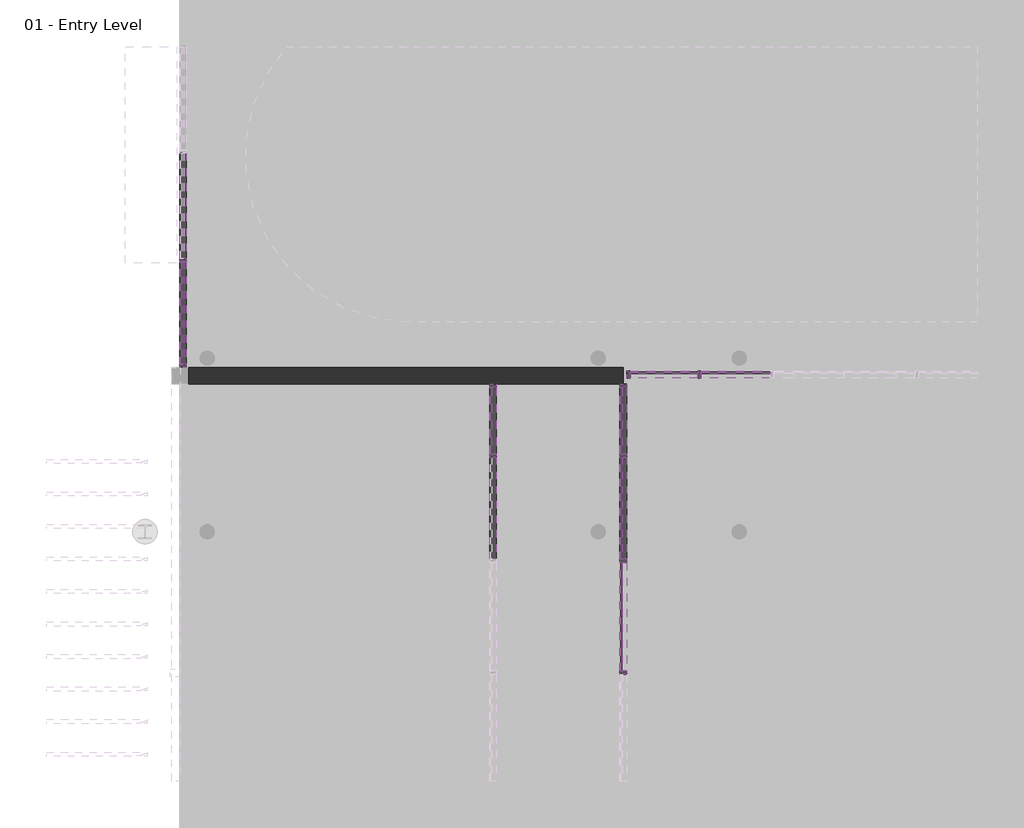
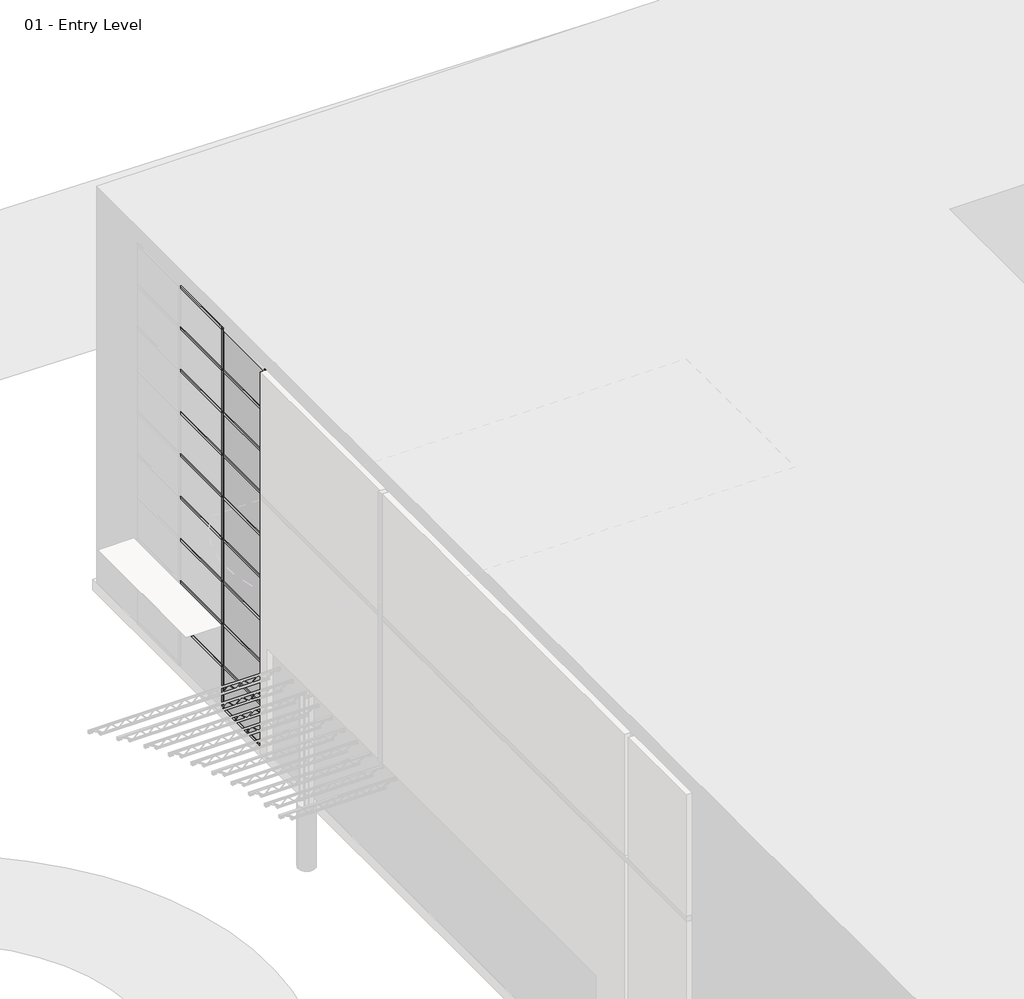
# One storey, part 23 of 34: 92 members, 24 plates, 1 door, 1 wall.
"""IFC4 building model written with IfcOpenShell, lengths in millimetres."""

from ifc_helpers import new_model, si_unit, origin, place, context, project, spatial, faceted_brep, transform, mapped, element, save
from components import curtain_wall_dbl_glass_curtain_wall_dbl_glass_d7d74fe3, member_2b49869a, member_75074519, member_18e22e2d, member_9193c932, member_391b434c, member_9e90ae50, member_71eb4692, member_a1da5be3, member_995c57f6, member_4a2c27e2, member_e7b2e991, member_547128e5, member_76223ac8, member_c8c2a2fa, member_6186cc23, member_5d67b9fc, member_a50b3cda, member_c327c56d, member_dfe75557, member_ec52078f, member_0a82c195, member_a6658832, member_b37ae9b7, member_f95d5bf5, member_cc8ff548, system_panel_glazed_652821f2, system_panel_glazed_968bda60, system_panel_glazed_6afda307, system_panel_glazed_f5a86650, system_panel_glazed_7fb24999, system_panel_glazed_57fb76c6, system_panel_glazed_8597e1a2, system_panel_glazed_7bbe6979, system_panel_glazed_d3a4a7cd, system_panel_glazed_76019dd7, system_panel_glazed_96e4dd87, system_panel_glazed_56110c51, system_panel_glazed_ea10912d, system_panel_glazed_266ebcb8, system_panel_solid_8d134956, system_panel_solid_ac74ffd1

model = new_model("IFC4")

# Units and contexts
model_context = context("Model", 3, world=origin())
ifc_project = project(units=[si_unit("LENGTHUNIT", "METRE", prefix="MILLI")], contexts=[model_context])

# Site, building, storey
site = spatial("IfcSite", under=ifc_project)
building = spatial("IfcBuilding", under=site)
storey = spatial("IfcBuildingStorey", under=building, Name="01 - Entry Level", Elevation=0.0)

# Door
placement = place(None, origin())
curtain_wall_dbl_glass_curtain_wall_dbl_glass_shape = curtain_wall_dbl_glass_curtain_wall_dbl_glass_d7d74fe3(model_context)
element("IfcDoor", 1, ObjectType="Curtain Wall Dbl Glass : Curtain Wall Dbl Glass", at=placement, inside=storey, context=model_context, shape_type="MappedRepresentation", body=[
    mapped(curtain_wall_dbl_glass_curtain_wall_dbl_glass_shape, transform((8421.0207476, 41071.725, 0.0), x_axis=(0.0, 1.0, 0.0), y_axis=(-1.0, 0.0, 0.0), z_axis=(0.0, 0.0, 1.0))),
])

# Members
member_shape = member_2b49869a(model_context)
element("IfcMember", 2, ObjectType="Rectangular Mullion : 2.5\" x 5\" rectangular", at=placement, inside=storey, context=model_context, shape_type="MappedRepresentation", body=[
    mapped(member_shape, transform((178.7207476, 47748.75, 9753.6), x_axis=(0.0, -1.0, 0.0), y_axis=(-1.0, 0.0, 0.0), z_axis=(0.0, 0.0, -1.0))),
])
member_2_shape = member_75074519(model_context)
element("IfcMember", 3, ObjectType="Rectangular Mullion : 2.5\" x 5\" rectangular", at=placement, inside=storey, context=model_context, shape_type="MappedRepresentation", body=[
    mapped(member_2_shape, transform((178.7207476, 45735.8, 9753.6), x_axis=(0.0, -1.0, 0.0), y_axis=(-1.0, 0.0, 0.0), z_axis=(0.0, 0.0, -1.0))),
])
member_3_shape = member_18e22e2d(model_context)
element("IfcMember", 4, ObjectType="Rectangular Mullion : 2.5\" x 5\" rectangular", at=placement, inside=storey, context=model_context, shape_type="MappedRepresentation", body=[
    mapped(member_3_shape, transform((9843.4207476, 45608.8, 2438.4), x_axis=(-1.0, 0.0, 0.0), y_axis=(0.0, 1.0, 0.0), z_axis=(0.0, 0.0, -1.0))),
])
element("IfcMember", 5, ObjectType="Rectangular Mullion : 2.5\" x 5\" rectangular", at=placement, inside=storey, context=model_context, shape_type="MappedRepresentation", body=[
    mapped(member_3_shape, transform((5982.6207476, 44087.975, 2438.4), x_axis=(0.0, 1.0, 0.0), y_axis=(1.0, 0.0, 0.0), z_axis=(0.0, 0.0, -1.0))),
])
element("IfcMember", 6, ObjectType="Rectangular Mullion : 2.5\" x 5\" rectangular", at=placement, inside=storey, context=model_context, shape_type="MappedRepresentation", body=[
    mapped(member_3_shape, transform((8421.0207476, 40023.975, 2438.4), x_axis=(0.0, 1.0, 0.0), y_axis=(1.0, 0.0, 0.0), z_axis=(0.0, 0.0, -1.0))),
])
element("IfcMember", 7, ObjectType="Rectangular Mullion : 2.5\" x 5\" rectangular", at=placement, inside=storey, context=model_context, shape_type="MappedRepresentation", body=[
    mapped(member_3_shape, transform((8421.0207476, 42119.475, 2438.4), x_axis=(0.0, 1.0, 0.0), y_axis=(1.0, 0.0, 0.0), z_axis=(0.0, 0.0, -1.0))),
])
element("IfcMember", 8, ObjectType="Rectangular Mullion : 2.5\" x 5\" rectangular", at=placement, inside=storey, context=model_context, shape_type="MappedRepresentation", body=[
    mapped(member_3_shape, transform((8421.0207476, 44087.975, 2438.4), x_axis=(0.0, 1.0, 0.0), y_axis=(1.0, 0.0, 0.0), z_axis=(0.0, 0.0, -1.0))),
])
member_4_shape = member_9193c932(model_context)
element("IfcMember", 9, ObjectType="Rectangular Mullion : 2.5\" x 5\" rectangular", at=placement, inside=storey, context=model_context, shape_type="MappedRepresentation", body=[
    mapped(member_4_shape, transform((5982.6207476, 45427.825, 2438.4), x_axis=(0.0, 1.0, 0.0), y_axis=(1.0, 0.0, 0.0), z_axis=(0.0, 0.0, -1.0))),
])
element("IfcMember", 10, ObjectType="Rectangular Mullion : 2.5\" x 5\" rectangular", at=placement, inside=storey, context=model_context, shape_type="MappedRepresentation", body=[
    mapped(member_4_shape, transform((8421.0207476, 45427.825, 2438.4), x_axis=(0.0, 1.0, 0.0), y_axis=(1.0, 0.0, 0.0), z_axis=(0.0, 0.0, -1.0))),
])
element("IfcMember", 11, ObjectType="Rectangular Mullion : 2.5\" x 5\" rectangular", at=placement, inside=storey, context=model_context, shape_type="MappedRepresentation", body=[
    mapped(member_4_shape, transform((8484.5207476, 45608.8, 2438.4), x_axis=(-1.0, 0.0, 0.0), y_axis=(0.0, 1.0, 0.0), z_axis=(0.0, 0.0, -1.0))),
])
member_5_shape = member_391b434c(model_context)
element("IfcMember", 12, ObjectType="Rectangular Mullion : 2.5\" x 5\" rectangular", at=placement, inside=storey, context=model_context, shape_type="MappedRepresentation", body=[
    mapped(member_5_shape, transform((178.7207476, 47780.5, 10972.8), x_axis=(0.0, 0.0, 1.0), y_axis=(-1.0, 0.0, 0.0), z_axis=(0.0, -1.0, 0.0))),
])
member_6_shape = member_9e90ae50(model_context)
element("IfcMember", 13, ObjectType="Rectangular Mullion : 2.5\" x 5\" rectangular", at=placement, inside=storey, context=model_context, shape_type="MappedRepresentation", body=[
    mapped(member_6_shape, transform((178.7207476, 47780.5, 1219.2), x_axis=(0.0, 0.0, 1.0), y_axis=(-1.0, 0.0, 0.0), z_axis=(0.0, -1.0, 0.0))),
])
element("IfcMember", 14, ObjectType="Rectangular Mullion : 2.5\" x 5\" rectangular", at=placement, inside=storey, context=model_context, shape_type="MappedRepresentation", body=[
    mapped(member_6_shape, transform((178.7207476, 47780.5, 2438.4), x_axis=(0.0, 0.0, 1.0), y_axis=(-1.0, 0.0, 0.0), z_axis=(0.0, -1.0, 0.0))),
])
element("IfcMember", 15, ObjectType="Rectangular Mullion : 2.5\" x 5\" rectangular", at=placement, inside=storey, context=model_context, shape_type="MappedRepresentation", body=[
    mapped(member_6_shape, transform((178.7207476, 47780.5, 3657.6), x_axis=(0.0, 0.0, 1.0), y_axis=(-1.0, 0.0, 0.0), z_axis=(0.0, -1.0, 0.0))),
])
element("IfcMember", 16, ObjectType="Rectangular Mullion : 2.5\" x 5\" rectangular", at=placement, inside=storey, context=model_context, shape_type="MappedRepresentation", body=[
    mapped(member_6_shape, transform((178.7207476, 47780.5, 4876.8), x_axis=(0.0, 0.0, 1.0), y_axis=(-1.0, 0.0, 0.0), z_axis=(0.0, -1.0, 0.0))),
])
element("IfcMember", 17, ObjectType="Rectangular Mullion : 2.5\" x 5\" rectangular", at=placement, inside=storey, context=model_context, shape_type="MappedRepresentation", body=[
    mapped(member_6_shape, transform((178.7207476, 47780.5, 6096.0), x_axis=(0.0, 0.0, 1.0), y_axis=(-1.0, 0.0, 0.0), z_axis=(0.0, -1.0, 0.0))),
])
element("IfcMember", 18, ObjectType="Rectangular Mullion : 2.5\" x 5\" rectangular", at=placement, inside=storey, context=model_context, shape_type="MappedRepresentation", body=[
    mapped(member_6_shape, transform((178.7207476, 47780.5, 7315.2), x_axis=(0.0, 0.0, 1.0), y_axis=(-1.0, 0.0, 0.0), z_axis=(0.0, -1.0, 0.0))),
])
element("IfcMember", 19, ObjectType="Rectangular Mullion : 2.5\" x 5\" rectangular", at=placement, inside=storey, context=model_context, shape_type="MappedRepresentation", body=[
    mapped(member_6_shape, transform((178.7207476, 47780.5, 8534.4), x_axis=(0.0, 0.0, 1.0), y_axis=(-1.0, 0.0, 0.0), z_axis=(0.0, -1.0, 0.0))),
])
element("IfcMember", 20, ObjectType="Rectangular Mullion : 2.5\" x 5\" rectangular", at=placement, inside=storey, context=model_context, shape_type="MappedRepresentation", body=[
    mapped(member_6_shape, transform((178.7207476, 47780.5, 9753.6), x_axis=(0.0, 0.0, 1.0), y_axis=(-1.0, 0.0, 0.0), z_axis=(0.0, -1.0, 0.0))),
])
element("IfcMember", 21, ObjectType="Rectangular Mullion : 2.5\" x 5\" rectangular", at=placement, inside=storey, context=model_context, shape_type="MappedRepresentation", body=[
    mapped(member_shape, transform((178.7207476, 47748.75, 0.0), x_axis=(0.0, -1.0, 0.0), y_axis=(-1.0, 0.0, 0.0), z_axis=(0.0, 0.0, -1.0))),
])
element("IfcMember", 22, ObjectType="Rectangular Mullion : 2.5\" x 5\" rectangular", at=placement, inside=storey, context=model_context, shape_type="MappedRepresentation", body=[
    mapped(member_shape, transform((178.7207476, 47748.75, 1219.2), x_axis=(0.0, -1.0, 0.0), y_axis=(-1.0, 0.0, 0.0), z_axis=(0.0, 0.0, -1.0))),
])
element("IfcMember", 23, ObjectType="Rectangular Mullion : 2.5\" x 5\" rectangular", at=placement, inside=storey, context=model_context, shape_type="MappedRepresentation", body=[
    mapped(member_shape, transform((178.7207476, 47748.75, 2438.4), x_axis=(0.0, -1.0, 0.0), y_axis=(-1.0, 0.0, 0.0), z_axis=(0.0, 0.0, -1.0))),
])
element("IfcMember", 24, ObjectType="Rectangular Mullion : 2.5\" x 5\" rectangular", at=placement, inside=storey, context=model_context, shape_type="MappedRepresentation", body=[
    mapped(member_shape, transform((178.7207476, 47748.75, 3657.6), x_axis=(0.0, -1.0, 0.0), y_axis=(-1.0, 0.0, 0.0), z_axis=(0.0, 0.0, -1.0))),
])
element("IfcMember", 25, ObjectType="Rectangular Mullion : 2.5\" x 5\" rectangular", at=placement, inside=storey, context=model_context, shape_type="MappedRepresentation", body=[
    mapped(member_shape, transform((178.7207476, 47748.75, 4876.8), x_axis=(0.0, -1.0, 0.0), y_axis=(-1.0, 0.0, 0.0), z_axis=(0.0, 0.0, -1.0))),
])
element("IfcMember", 26, ObjectType="Rectangular Mullion : 2.5\" x 5\" rectangular", at=placement, inside=storey, context=model_context, shape_type="MappedRepresentation", body=[
    mapped(member_shape, transform((178.7207476, 47748.75, 6096.0), x_axis=(0.0, -1.0, 0.0), y_axis=(-1.0, 0.0, 0.0), z_axis=(0.0, 0.0, -1.0))),
])
element("IfcMember", 27, ObjectType="Rectangular Mullion : 2.5\" x 5\" rectangular", at=placement, inside=storey, context=model_context, shape_type="MappedRepresentation", body=[
    mapped(member_shape, transform((178.7207476, 47748.75, 7315.2), x_axis=(0.0, -1.0, 0.0), y_axis=(-1.0, 0.0, 0.0), z_axis=(0.0, 0.0, -1.0))),
])
element("IfcMember", 28, ObjectType="Rectangular Mullion : 2.5\" x 5\" rectangular", at=placement, inside=storey, context=model_context, shape_type="MappedRepresentation", body=[
    mapped(member_shape, transform((178.7207476, 47748.75, 8534.4), x_axis=(0.0, -1.0, 0.0), y_axis=(-1.0, 0.0, 0.0), z_axis=(0.0, 0.0, -1.0))),
])
element("IfcMember", 29, ObjectType="Rectangular Mullion : 2.5\" x 5\" rectangular", at=placement, inside=storey, context=model_context, shape_type="MappedRepresentation", body=[
    mapped(member_shape, transform((5982.6207476, 44087.975, 0.0), x_axis=(0.0, 1.0, 0.0), y_axis=(1.0, 0.0, 0.0), z_axis=(0.0, 0.0, -1.0))),
])
element("IfcMember", 30, ObjectType="Rectangular Mullion : 2.5\" x 5\" rectangular", at=placement, inside=storey, context=model_context, shape_type="MappedRepresentation", body=[
    mapped(member_shape, transform((8421.0207476, 42119.475, 0.0), x_axis=(0.0, 1.0, 0.0), y_axis=(1.0, 0.0, 0.0), z_axis=(0.0, 0.0, -1.0))),
])
element("IfcMember", 31, ObjectType="Rectangular Mullion : 2.5\" x 5\" rectangular", at=placement, inside=storey, context=model_context, shape_type="MappedRepresentation", body=[
    mapped(member_shape, transform((8421.0207476, 44087.975, 0.0), x_axis=(0.0, 1.0, 0.0), y_axis=(1.0, 0.0, 0.0), z_axis=(0.0, 0.0, -1.0))),
])
element("IfcMember", 32, ObjectType="Rectangular Mullion : 2.5\" x 5\" rectangular", at=placement, inside=storey, context=model_context, shape_type="MappedRepresentation", body=[
    mapped(member_2_shape, transform((178.7207476, 45735.8, 0.0), x_axis=(0.0, -1.0, 0.0), y_axis=(-1.0, 0.0, 0.0), z_axis=(0.0, 0.0, -1.0))),
])
element("IfcMember", 33, ObjectType="Rectangular Mullion : 2.5\" x 5\" rectangular", at=placement, inside=storey, context=model_context, shape_type="MappedRepresentation", body=[
    mapped(member_2_shape, transform((5982.6207476, 45427.825, 0.0), x_axis=(0.0, 1.0, 0.0), y_axis=(1.0, 0.0, 0.0), z_axis=(0.0, 0.0, -1.0))),
])
element("IfcMember", 34, ObjectType="Rectangular Mullion : 2.5\" x 5\" rectangular", at=placement, inside=storey, context=model_context, shape_type="MappedRepresentation", body=[
    mapped(member_2_shape, transform((8421.0207476, 45427.825, 0.0), x_axis=(0.0, 1.0, 0.0), y_axis=(1.0, 0.0, 0.0), z_axis=(0.0, 0.0, -1.0))),
])
element("IfcMember", 35, ObjectType="Rectangular Mullion : 2.5\" x 5\" rectangular", at=placement, inside=storey, context=model_context, shape_type="MappedRepresentation", body=[
    mapped(member_2_shape, transform((178.7207476, 45735.8, 1219.2), x_axis=(0.0, -1.0, 0.0), y_axis=(-1.0, 0.0, 0.0), z_axis=(0.0, 0.0, -1.0))),
])
element("IfcMember", 36, ObjectType="Rectangular Mullion : 2.5\" x 5\" rectangular", at=placement, inside=storey, context=model_context, shape_type="MappedRepresentation", body=[
    mapped(member_2_shape, transform((178.7207476, 45735.8, 2438.4), x_axis=(0.0, -1.0, 0.0), y_axis=(-1.0, 0.0, 0.0), z_axis=(0.0, 0.0, -1.0))),
])
element("IfcMember", 37, ObjectType="Rectangular Mullion : 2.5\" x 5\" rectangular", at=placement, inside=storey, context=model_context, shape_type="MappedRepresentation", body=[
    mapped(member_2_shape, transform((178.7207476, 45735.8, 3657.6), x_axis=(0.0, -1.0, 0.0), y_axis=(-1.0, 0.0, 0.0), z_axis=(0.0, 0.0, -1.0))),
])
element("IfcMember", 38, ObjectType="Rectangular Mullion : 2.5\" x 5\" rectangular", at=placement, inside=storey, context=model_context, shape_type="MappedRepresentation", body=[
    mapped(member_2_shape, transform((178.7207476, 45735.8, 4876.8), x_axis=(0.0, -1.0, 0.0), y_axis=(-1.0, 0.0, 0.0), z_axis=(0.0, 0.0, -1.0))),
])
element("IfcMember", 39, ObjectType="Rectangular Mullion : 2.5\" x 5\" rectangular", at=placement, inside=storey, context=model_context, shape_type="MappedRepresentation", body=[
    mapped(member_2_shape, transform((178.7207476, 45735.8, 6096.0), x_axis=(0.0, -1.0, 0.0), y_axis=(-1.0, 0.0, 0.0), z_axis=(0.0, 0.0, -1.0))),
])
element("IfcMember", 40, ObjectType="Rectangular Mullion : 2.5\" x 5\" rectangular", at=placement, inside=storey, context=model_context, shape_type="MappedRepresentation", body=[
    mapped(member_2_shape, transform((178.7207476, 45735.8, 7315.2), x_axis=(0.0, -1.0, 0.0), y_axis=(-1.0, 0.0, 0.0), z_axis=(0.0, 0.0, -1.0))),
])
element("IfcMember", 41, ObjectType="Rectangular Mullion : 2.5\" x 5\" rectangular", at=placement, inside=storey, context=model_context, shape_type="MappedRepresentation", body=[
    mapped(member_2_shape, transform((178.7207476, 45735.8, 8534.4), x_axis=(0.0, -1.0, 0.0), y_axis=(-1.0, 0.0, 0.0), z_axis=(0.0, 0.0, -1.0))),
])
element("IfcMember", 42, ObjectType="Rectangular Mullion : 2.5\" x 5\" rectangular", at=placement, inside=storey, context=model_context, shape_type="MappedRepresentation", body=[
    mapped(member_shape, transform((8421.0207476, 40023.975, 0.0), x_axis=(0.0, 1.0, 0.0), y_axis=(1.0, 0.0, 0.0), z_axis=(0.0, 0.0, -1.0))),
])
member_7_shape = member_71eb4692(model_context)
element("IfcMember", 43, ObjectType="Rectangular Mullion : 2.5\" x 5\" rectangular", at=placement, inside=storey, context=model_context, shape_type="MappedRepresentation", body=[
    mapped(member_7_shape, transform((5982.6207476, 45364.325, 3403.6), x_axis=(0.0, 0.0, 1.0), y_axis=(1.0, 0.0, 0.0), z_axis=(0.0, 1.0, 0.0))),
])
element("IfcMember", 44, ObjectType="Rectangular Mullion : 2.5\" x 5\" rectangular", at=placement, inside=storey, context=model_context, shape_type="MappedRepresentation", body=[
    mapped(member_7_shape, transform((8421.0207476, 45364.325, 3403.6), x_axis=(0.0, 0.0, 1.0), y_axis=(1.0, 0.0, 0.0), z_axis=(0.0, 1.0, 0.0))),
])
element("IfcMember", 45, ObjectType="Rectangular Mullion : 2.5\" x 5\" rectangular", at=placement, inside=storey, context=model_context, shape_type="MappedRepresentation", body=[
    mapped(member_7_shape, transform((5982.6207476, 44119.725, 0.0), x_axis=(0.0, 0.0, -1.0), y_axis=(1.0, 0.0, 0.0), z_axis=(0.0, -1.0, 0.0))),
])
element("IfcMember", 46, ObjectType="Rectangular Mullion : 2.5\" x 5\" rectangular", at=placement, inside=storey, context=model_context, shape_type="MappedRepresentation", body=[
    mapped(member_7_shape, transform((8421.0207476, 44119.725, 0.0), x_axis=(0.0, 0.0, -1.0), y_axis=(1.0, 0.0, 0.0), z_axis=(0.0, -1.0, 0.0))),
])
member_8_shape = member_a1da5be3(model_context)
element("IfcMember", 47, ObjectType="Rectangular Mullion : 2.5\" x 5\" rectangular", at=placement, inside=storey, context=model_context, shape_type="MappedRepresentation", body=[
    mapped(member_8_shape, transform((5982.6207476, 45364.325, 1219.2), x_axis=(0.0, 0.0, 1.0), y_axis=(1.0, 0.0, 0.0), z_axis=(0.0, 1.0, 0.0))),
])
element("IfcMember", 48, ObjectType="Rectangular Mullion : 2.5\" x 5\" rectangular", at=placement, inside=storey, context=model_context, shape_type="MappedRepresentation", body=[
    mapped(member_8_shape, transform((5982.6207476, 45364.325, 2438.4), x_axis=(0.0, 0.0, 1.0), y_axis=(1.0, 0.0, 0.0), z_axis=(0.0, 1.0, 0.0))),
])
element("IfcMember", 49, ObjectType="Rectangular Mullion : 2.5\" x 5\" rectangular", at=placement, inside=storey, context=model_context, shape_type="MappedRepresentation", body=[
    mapped(member_8_shape, transform((8421.0207476, 45364.325, 1219.2), x_axis=(0.0, 0.0, 1.0), y_axis=(1.0, 0.0, 0.0), z_axis=(0.0, 1.0, 0.0))),
])
element("IfcMember", 50, ObjectType="Rectangular Mullion : 2.5\" x 5\" rectangular", at=placement, inside=storey, context=model_context, shape_type="MappedRepresentation", body=[
    mapped(member_8_shape, transform((8421.0207476, 45364.325, 2438.4), x_axis=(0.0, 0.0, 1.0), y_axis=(1.0, 0.0, 0.0), z_axis=(0.0, 1.0, 0.0))),
])
member_9_shape = member_995c57f6(model_context)
element("IfcMember", 51, ObjectType="Rectangular Mullion : 2.5\" x 5\" rectangular", at=placement, inside=storey, context=model_context, shape_type="MappedRepresentation", body=[
    mapped(member_9_shape, transform((178.7207476, 47717.0, 0.0), x_axis=(0.0, 0.0, -1.0), y_axis=(-1.0, 0.0, 0.0), z_axis=(0.0, 1.0, 0.0))),
])
member_10_shape = member_4a2c27e2(model_context)
element("IfcMember", 52, ObjectType="Rectangular Mullion : 2.5\" x 5\" rectangular", at=placement, inside=storey, context=model_context, shape_type="MappedRepresentation", body=[
    mapped(member_10_shape, transform((178.7207476, 45799.3, 1219.2), x_axis=(0.0, 0.0, 1.0), y_axis=(-1.0, 0.0, 0.0), z_axis=(0.0, -1.0, 0.0))),
])
element("IfcMember", 53, ObjectType="Rectangular Mullion : 2.5\" x 5\" rectangular", at=placement, inside=storey, context=model_context, shape_type="MappedRepresentation", body=[
    mapped(member_10_shape, transform((178.7207476, 45799.3, 2438.4), x_axis=(0.0, 0.0, 1.0), y_axis=(-1.0, 0.0, 0.0), z_axis=(0.0, -1.0, 0.0))),
])
element("IfcMember", 54, ObjectType="Rectangular Mullion : 2.5\" x 5\" rectangular", at=placement, inside=storey, context=model_context, shape_type="MappedRepresentation", body=[
    mapped(member_10_shape, transform((178.7207476, 45799.3, 3657.6), x_axis=(0.0, 0.0, 1.0), y_axis=(-1.0, 0.0, 0.0), z_axis=(0.0, -1.0, 0.0))),
])
element("IfcMember", 55, ObjectType="Rectangular Mullion : 2.5\" x 5\" rectangular", at=placement, inside=storey, context=model_context, shape_type="MappedRepresentation", body=[
    mapped(member_10_shape, transform((178.7207476, 45799.3, 4876.8), x_axis=(0.0, 0.0, 1.0), y_axis=(-1.0, 0.0, 0.0), z_axis=(0.0, -1.0, 0.0))),
])
element("IfcMember", 56, ObjectType="Rectangular Mullion : 2.5\" x 5\" rectangular", at=placement, inside=storey, context=model_context, shape_type="MappedRepresentation", body=[
    mapped(member_10_shape, transform((178.7207476, 45799.3, 6096.0), x_axis=(0.0, 0.0, 1.0), y_axis=(-1.0, 0.0, 0.0), z_axis=(0.0, -1.0, 0.0))),
])
element("IfcMember", 57, ObjectType="Rectangular Mullion : 2.5\" x 5\" rectangular", at=placement, inside=storey, context=model_context, shape_type="MappedRepresentation", body=[
    mapped(member_10_shape, transform((178.7207476, 45799.3, 7315.2), x_axis=(0.0, 0.0, 1.0), y_axis=(-1.0, 0.0, 0.0), z_axis=(0.0, -1.0, 0.0))),
])
element("IfcMember", 58, ObjectType="Rectangular Mullion : 2.5\" x 5\" rectangular", at=placement, inside=storey, context=model_context, shape_type="MappedRepresentation", body=[
    mapped(member_10_shape, transform((178.7207476, 45799.3, 8534.4), x_axis=(0.0, 0.0, 1.0), y_axis=(-1.0, 0.0, 0.0), z_axis=(0.0, -1.0, 0.0))),
])
element("IfcMember", 59, ObjectType="Rectangular Mullion : 2.5\" x 5\" rectangular", at=placement, inside=storey, context=model_context, shape_type="MappedRepresentation", body=[
    mapped(member_10_shape, transform((178.7207476, 45799.3, 9753.6), x_axis=(0.0, 0.0, 1.0), y_axis=(-1.0, 0.0, 0.0), z_axis=(0.0, -1.0, 0.0))),
])
member_11_shape = member_e7b2e991(model_context)
element("IfcMember", 60, ObjectType="Rectangular Mullion : 2.5\" x 5\" rectangular", at=placement, inside=storey, context=model_context, shape_type="MappedRepresentation", body=[
    mapped(member_11_shape, transform((8548.0207476, 45608.8, 3403.6), x_axis=(0.0, 0.0, 1.0), y_axis=(0.0, 1.0, 0.0), z_axis=(-1.0, 0.0, 0.0))),
])
element("IfcMember", 61, ObjectType="Rectangular Mullion : 2.5\" x 5\" rectangular", at=placement, inside=storey, context=model_context, shape_type="MappedRepresentation", body=[
    mapped(member_11_shape, transform((9811.6707476, 45608.8, 0.0), x_axis=(0.0, 0.0, -1.0), y_axis=(0.0, 1.0, 0.0), z_axis=(1.0, 0.0, 0.0))),
])
member_12_shape = member_547128e5(model_context)
element("IfcMember", 62, ObjectType="Rectangular Mullion : 2.5\" x 5\" rectangular", at=placement, inside=storey, context=model_context, shape_type="MappedRepresentation", body=[
    mapped(member_12_shape, transform((9875.1707476, 45608.8, 3403.6), x_axis=(0.0, 0.0, 1.0), y_axis=(0.0, 1.0, 0.0), z_axis=(-1.0, 0.0, 0.0))),
])
element("IfcMember", 63, ObjectType="Rectangular Mullion : 2.5\" x 5\" rectangular", at=placement, inside=storey, context=model_context, shape_type="MappedRepresentation", body=[
    mapped(member_12_shape, transform((11170.5707476, 45608.8, 0.0), x_axis=(0.0, 0.0, -1.0), y_axis=(0.0, 1.0, 0.0), z_axis=(1.0, 0.0, 0.0))),
])
member_13_shape = member_76223ac8(model_context)
element("IfcMember", 64, ObjectType="Rectangular Mullion : 2.5\" x 5\" rectangular", at=placement, inside=storey, context=model_context, shape_type="MappedRepresentation", body=[
    mapped(member_13_shape, transform((8548.0207476, 45608.8, 2438.4), x_axis=(0.0, 0.0, 1.0), y_axis=(0.0, 1.0, 0.0), z_axis=(-1.0, 0.0, 0.0))),
])
member_14_shape = member_c8c2a2fa(model_context)
element("IfcMember", 65, ObjectType="Rectangular Mullion : 2.5\" x 5\" rectangular", at=placement, inside=storey, context=model_context, shape_type="MappedRepresentation", body=[
    mapped(member_14_shape, transform((9875.1707476, 45608.8, 2438.4), x_axis=(0.0, 0.0, 1.0), y_axis=(0.0, 1.0, 0.0), z_axis=(-1.0, 0.0, 0.0))),
])
member_15_shape = member_6186cc23(model_context)
element("IfcMember", 66, ObjectType="Rectangular Mullion : 2.5\" x 5\" rectangular", at=placement, inside=storey, context=model_context, shape_type="MappedRepresentation", body=[
    mapped(member_15_shape, transform((9843.4207476, 45608.8, 0.0), x_axis=(-1.0, 0.0, 0.0), y_axis=(0.0, 1.0, 0.0), z_axis=(0.0, 0.0, -1.0))),
])
member_16_shape = member_5d67b9fc(model_context)
element("IfcMember", 67, ObjectType="Rectangular Mullion : 2.5\" x 5\" rectangular", at=placement, inside=storey, context=model_context, shape_type="MappedRepresentation", body=[
    mapped(member_16_shape, transform((9843.4207476, 45608.8, 2165.35), x_axis=(-1.0, 0.0, 0.0), y_axis=(0.0, 1.0, 0.0), z_axis=(0.0, 0.0, -1.0))),
])
member_17_shape = member_a50b3cda(model_context)
element("IfcMember", 68, ObjectType="Rectangular Mullion : 2.5\" x 5\" rectangular", at=placement, inside=storey, context=model_context, shape_type="MappedRepresentation", body=[
    mapped(member_17_shape, transform((8484.5207476, 45608.8, 0.0), x_axis=(-1.0, 0.0, 0.0), y_axis=(0.0, 1.0, 0.0), z_axis=(0.0, 0.0, -1.0))),
])
member_18_shape = member_c327c56d(model_context)
element("IfcMember", 69, ObjectType="Rectangular Mullion : 2.5\" x 5\" rectangular", at=placement, inside=storey, context=model_context, shape_type="MappedRepresentation", body=[
    mapped(member_18_shape, transform((8484.5207476, 45608.8, 2165.35), x_axis=(-1.0, 0.0, 0.0), y_axis=(0.0, 1.0, 0.0), z_axis=(0.0, 0.0, -1.0))),
])
member_19_shape = member_dfe75557(model_context)
element("IfcMember", 70, ObjectType="Rectangular Mullion : 2.5\" x 5\" rectangular", at=placement, inside=storey, context=model_context, shape_type="MappedRepresentation", body=[
    mapped(member_19_shape, transform((11234.0707476, 45608.8, 3403.6), x_axis=(0.0, 0.0, 1.0), y_axis=(0.0, 1.0, 0.0), z_axis=(-1.0, 0.0, 0.0))),
])
member_20_shape = member_ec52078f(model_context)
element("IfcMember", 71, ObjectType="Rectangular Mullion : 2.5\" x 5\" rectangular", at=placement, inside=storey, context=model_context, shape_type="MappedRepresentation", body=[
    mapped(member_20_shape, transform((11615.0707476, 45608.8, 2438.4), x_axis=(0.0, 0.0, 1.0), y_axis=(0.0, 1.0, 0.0), z_axis=(-1.0, 0.0, 0.0))),
])
element("IfcMember", 72, ObjectType="Rectangular Mullion : 2.5\" x 5\" rectangular", at=placement, inside=storey, context=model_context, shape_type="MappedRepresentation", body=[
    mapped(member_16_shape, transform((8421.0207476, 40023.975, 2165.35), x_axis=(0.0, 1.0, 0.0), y_axis=(1.0, 0.0, 0.0), z_axis=(0.0, 0.0, -1.0))),
])
element("IfcMember", 73, ObjectType="Rectangular Mullion : 2.5\" x 5\" rectangular", at=placement, inside=storey, context=model_context, shape_type="MappedRepresentation", body=[
    mapped(member_16_shape, transform((8421.0207476, 42119.475, 2165.35), x_axis=(0.0, 1.0, 0.0), y_axis=(1.0, 0.0, 0.0), z_axis=(0.0, 0.0, -1.0))),
])
element("IfcMember", 74, ObjectType="Rectangular Mullion : 2.5\" x 5\" rectangular", at=placement, inside=storey, context=model_context, shape_type="MappedRepresentation", body=[
    mapped(member_18_shape, transform((5982.6207476, 45427.825, 2165.35), x_axis=(0.0, 1.0, 0.0), y_axis=(1.0, 0.0, 0.0), z_axis=(0.0, 0.0, -1.0))),
])
element("IfcMember", 75, ObjectType="Rectangular Mullion : 2.5\" x 5\" rectangular", at=placement, inside=storey, context=model_context, shape_type="MappedRepresentation", body=[
    mapped(member_18_shape, transform((8421.0207476, 45427.825, 2165.35), x_axis=(0.0, 1.0, 0.0), y_axis=(1.0, 0.0, 0.0), z_axis=(0.0, 0.0, -1.0))),
])
element("IfcMember", 76, ObjectType="Rectangular Mullion : 2.5\" x 5\" rectangular", at=placement, inside=storey, context=model_context, shape_type="MappedRepresentation", body=[
    mapped(member_16_shape, transform((5982.6207476, 44087.975, 2165.35), x_axis=(0.0, 1.0, 0.0), y_axis=(1.0, 0.0, 0.0), z_axis=(0.0, 0.0, -1.0))),
])
element("IfcMember", 77, ObjectType="Rectangular Mullion : 2.5\" x 5\" rectangular", at=placement, inside=storey, context=model_context, shape_type="MappedRepresentation", body=[
    mapped(member_16_shape, transform((8421.0207476, 44087.975, 2165.35), x_axis=(0.0, 1.0, 0.0), y_axis=(1.0, 0.0, 0.0), z_axis=(0.0, 0.0, -1.0))),
])
member_21_shape = member_0a82c195(model_context)
element("IfcMember", 78, ObjectType="Rectangular Mullion : 2.5\" x 5\" rectangular", at=placement, inside=storey, context=model_context, shape_type="MappedRepresentation", body=[
    mapped(member_21_shape, transform((8421.0207476, 42087.725, 3403.6), x_axis=(0.0, 0.0, 1.0), y_axis=(1.0, 0.0, 0.0), z_axis=(0.0, 1.0, 0.0))),
])
member_22_shape = member_a6658832(model_context)
element("IfcMember", 79, ObjectType="Rectangular Mullion : 2.5\" x 5\" rectangular", at=placement, inside=storey, context=model_context, shape_type="MappedRepresentation", body=[
    mapped(member_22_shape, transform((5982.6207476, 44056.225, 3403.6), x_axis=(0.0, 0.0, 1.0), y_axis=(1.0, 0.0, 0.0), z_axis=(0.0, 1.0, 0.0))),
])
element("IfcMember", 80, ObjectType="Rectangular Mullion : 2.5\" x 5\" rectangular", at=placement, inside=storey, context=model_context, shape_type="MappedRepresentation", body=[
    mapped(member_22_shape, transform((8421.0207476, 44056.225, 3403.6), x_axis=(0.0, 0.0, 1.0), y_axis=(1.0, 0.0, 0.0), z_axis=(0.0, 1.0, 0.0))),
])
element("IfcMember", 81, ObjectType="Rectangular Mullion : 2.5\" x 5\" rectangular", at=placement, inside=storey, context=model_context, shape_type="MappedRepresentation", body=[
    mapped(member_22_shape, transform((8421.0207476, 42151.225, 0.0), x_axis=(0.0, 0.0, -1.0), y_axis=(1.0, 0.0, 0.0), z_axis=(0.0, -1.0, 0.0))),
])
member_23_shape = member_b37ae9b7(model_context)
element("IfcMember", 82, ObjectType="Rectangular Mullion : 2.5\" x 5\" rectangular", at=placement, inside=storey, context=model_context, shape_type="MappedRepresentation", body=[
    mapped(member_23_shape, transform((5982.6207476, 44056.225, 1219.2), x_axis=(0.0, 0.0, 1.0), y_axis=(1.0, 0.0, 0.0), z_axis=(0.0, 1.0, 0.0))),
])
element("IfcMember", 83, ObjectType="Rectangular Mullion : 2.5\" x 5\" rectangular", at=placement, inside=storey, context=model_context, shape_type="MappedRepresentation", body=[
    mapped(member_23_shape, transform((5982.6207476, 44056.225, 2438.4), x_axis=(0.0, 0.0, 1.0), y_axis=(1.0, 0.0, 0.0), z_axis=(0.0, 1.0, 0.0))),
])
element("IfcMember", 84, ObjectType="Rectangular Mullion : 2.5\" x 5\" rectangular", at=placement, inside=storey, context=model_context, shape_type="MappedRepresentation", body=[
    mapped(member_23_shape, transform((8421.0207476, 44056.225, 1219.2), x_axis=(0.0, 0.0, 1.0), y_axis=(1.0, 0.0, 0.0), z_axis=(0.0, 1.0, 0.0))),
])
element("IfcMember", 85, ObjectType="Rectangular Mullion : 2.5\" x 5\" rectangular", at=placement, inside=storey, context=model_context, shape_type="MappedRepresentation", body=[
    mapped(member_23_shape, transform((8421.0207476, 44056.225, 2438.4), x_axis=(0.0, 0.0, 1.0), y_axis=(1.0, 0.0, 0.0), z_axis=(0.0, 1.0, 0.0))),
])
member_24_shape = member_f95d5bf5(model_context)
element("IfcMember", 86, ObjectType="Rectangular Mullion : 2.5\" x 5\" rectangular", at=placement, inside=storey, context=model_context, shape_type="MappedRepresentation", body=[
    mapped(member_24_shape, transform((8421.0207476, 42087.725, 2438.4), x_axis=(0.0, 0.0, 1.0), y_axis=(1.0, 0.0, 0.0), z_axis=(0.0, 1.0, 0.0))),
])
element("IfcMember", 87, ObjectType="Rectangular Mullion : 2.5\" x 5\" rectangular", at=placement, inside=storey, context=model_context, shape_type="MappedRepresentation", body=[
    mapped(member_24_shape, transform((8421.0207476, 42087.725, 2165.35), x_axis=(0.0, 0.0, 1.0), y_axis=(1.0, 0.0, 0.0), z_axis=(0.0, 1.0, 0.0))),
])
element("IfcMember", 88, ObjectType="Rectangular Mullion : 2.5\" x 5\" rectangular", at=placement, inside=storey, context=model_context, shape_type="MappedRepresentation", body=[
    mapped(member_20_shape, transform((5982.6207476, 44087.975, 1219.2), x_axis=(0.0, 1.0, 0.0), y_axis=(1.0, 0.0, 0.0), z_axis=(0.0, 0.0, -1.0))),
])
element("IfcMember", 89, ObjectType="Rectangular Mullion : 2.5\" x 5\" rectangular", at=placement, inside=storey, context=model_context, shape_type="MappedRepresentation", body=[
    mapped(member_20_shape, transform((8421.0207476, 44087.975, 1219.2), x_axis=(0.0, 1.0, 0.0), y_axis=(1.0, 0.0, 0.0), z_axis=(0.0, 0.0, -1.0))),
])
element("IfcMember", 90, ObjectType="Rectangular Mullion : 2.5\" x 5\" rectangular", at=placement, inside=storey, context=model_context, shape_type="MappedRepresentation", body=[
    mapped(member_20_shape, transform((8421.0207476, 40023.975, 1219.2), x_axis=(0.0, 1.0, 0.0), y_axis=(1.0, 0.0, 0.0), z_axis=(0.0, 0.0, -1.0))),
])
element("IfcMember", 91, ObjectType="Rectangular Mullion : 2.5\" x 5\" rectangular", at=placement, inside=storey, context=model_context, shape_type="MappedRepresentation", body=[
    mapped(member_20_shape, transform((8421.0207476, 42119.475, 1219.2), x_axis=(0.0, 1.0, 0.0), y_axis=(1.0, 0.0, 0.0), z_axis=(0.0, 0.0, -1.0))),
])
member_25_shape = member_cc8ff548(model_context)
element("IfcMember", 92, ObjectType="Rectangular Mullion : 2.5\" x 5\" rectangular", at=placement, inside=storey, context=model_context, shape_type="MappedRepresentation", body=[
    mapped(member_25_shape, transform((5982.6207476, 45427.825, 1219.2), x_axis=(0.0, 1.0, 0.0), y_axis=(1.0, 0.0, 0.0), z_axis=(0.0, 0.0, -1.0))),
])
element("IfcMember", 93, ObjectType="Rectangular Mullion : 2.5\" x 5\" rectangular", at=placement, inside=storey, context=model_context, shape_type="MappedRepresentation", body=[
    mapped(member_25_shape, transform((8421.0207476, 45427.825, 1219.2), x_axis=(0.0, 1.0, 0.0), y_axis=(1.0, 0.0, 0.0), z_axis=(0.0, 0.0, -1.0))),
])

# Plates
system_panel_glazed_shape = system_panel_glazed_652821f2(model_context)
element("IfcPlate", 94, ObjectType="System Panel : Glazed", at=placement, inside=storey, context=model_context, shape_type="MappedRepresentation", body=[
    mapped(system_panel_glazed_shape, transform((5982.6207476, 44742.025, 63.5), x_axis=(0.0, 1.0, 0.0), y_axis=(-1.0, 0.0, 0.0), z_axis=(0.0, 0.0, 1.0))),
])
element("IfcPlate", 95, ObjectType="System Panel : Glazed", at=placement, inside=storey, context=model_context, shape_type="MappedRepresentation", body=[
    mapped(system_panel_glazed_shape, transform((8421.0207476, 44742.025, 63.5), x_axis=(0.0, 1.0, 0.0), y_axis=(-1.0, 0.0, 0.0), z_axis=(0.0, 0.0, 1.0))),
])
system_panel_glazed_2_shape = system_panel_glazed_968bda60(model_context)
element("IfcPlate", 96, ObjectType="System Panel : Glazed", at=placement, inside=storey, context=model_context, shape_type="MappedRepresentation", body=[
    mapped(system_panel_glazed_2_shape, transform((5982.6207476, 44742.025, 2470.15), x_axis=(0.0, 1.0, 0.0), y_axis=(-1.0, 0.0, 0.0), z_axis=(0.0, 0.0, 1.0))),
])
element("IfcPlate", 97, ObjectType="System Panel : Glazed", at=placement, inside=storey, context=model_context, shape_type="MappedRepresentation", body=[
    mapped(system_panel_glazed_2_shape, transform((8421.0207476, 44742.025, 2470.15), x_axis=(0.0, 1.0, 0.0), y_axis=(-1.0, 0.0, 0.0), z_axis=(0.0, 0.0, 1.0))),
])
system_panel_glazed_3_shape = system_panel_glazed_6afda307(model_context)
element("IfcPlate", 98, ObjectType="System Panel : Glazed", at=placement, inside=storey, context=model_context, shape_type="MappedRepresentation", body=[
    mapped(system_panel_glazed_3_shape, transform((178.7207476, 46758.15, 63.5), x_axis=(0.0, -1.0, 0.0), y_axis=(1.0, 0.0, 0.0), z_axis=(0.0, 0.0, 1.0))),
])
system_panel_glazed_4_shape = system_panel_glazed_f5a86650(model_context)
element("IfcPlate", 99, ObjectType="System Panel : Glazed", at=placement, inside=storey, context=model_context, shape_type="MappedRepresentation", body=[
    mapped(system_panel_glazed_4_shape, transform((178.7207476, 46758.15, 1250.95), x_axis=(0.0, -1.0, 0.0), y_axis=(1.0, 0.0, 0.0), z_axis=(0.0, 0.0, 1.0))),
])
element("IfcPlate", 100, ObjectType="System Panel : Glazed", at=placement, inside=storey, context=model_context, shape_type="MappedRepresentation", body=[
    mapped(system_panel_glazed_4_shape, transform((178.7207476, 46758.15, 3689.35), x_axis=(0.0, -1.0, 0.0), y_axis=(1.0, 0.0, 0.0), z_axis=(0.0, 0.0, 1.0))),
])
element("IfcPlate", 101, ObjectType="System Panel : Glazed", at=placement, inside=storey, context=model_context, shape_type="MappedRepresentation", body=[
    mapped(system_panel_glazed_4_shape, transform((178.7207476, 46758.15, 4908.55), x_axis=(0.0, -1.0, 0.0), y_axis=(1.0, 0.0, 0.0), z_axis=(0.0, 0.0, 1.0))),
])
element("IfcPlate", 102, ObjectType="System Panel : Glazed", at=placement, inside=storey, context=model_context, shape_type="MappedRepresentation", body=[
    mapped(system_panel_glazed_4_shape, transform((178.7207476, 46758.15, 7346.95), x_axis=(0.0, -1.0, 0.0), y_axis=(1.0, 0.0, 0.0), z_axis=(0.0, 0.0, 1.0))),
])
element("IfcPlate", 103, ObjectType="System Panel : Glazed", at=placement, inside=storey, context=model_context, shape_type="MappedRepresentation", body=[
    mapped(system_panel_glazed_4_shape, transform((178.7207476, 46758.15, 8566.15), x_axis=(0.0, -1.0, 0.0), y_axis=(1.0, 0.0, 0.0), z_axis=(0.0, 0.0, 1.0))),
])
system_panel_glazed_5_shape = system_panel_glazed_7fb24999(model_context)
element("IfcPlate", 104, ObjectType="System Panel : Glazed", at=placement, inside=storey, context=model_context, shape_type="MappedRepresentation", body=[
    mapped(system_panel_glazed_5_shape, transform((9179.8457476, 45608.8, 2470.15), x_axis=(-1.0, 0.0, 0.0), y_axis=(0.0, -1.0, 0.0), z_axis=(0.0, 0.0, 1.0))),
])
system_panel_glazed_6_shape = system_panel_glazed_57fb76c6(model_context)
element("IfcPlate", 105, ObjectType="System Panel : Glazed", at=placement, inside=storey, context=model_context, shape_type="MappedRepresentation", body=[
    mapped(system_panel_glazed_6_shape, transform((10522.8707476, 45608.8, 2470.15), x_axis=(-1.0, 0.0, 0.0), y_axis=(0.0, -1.0, 0.0), z_axis=(0.0, 0.0, 1.0))),
])
system_panel_glazed_7_shape = system_panel_glazed_8597e1a2(model_context)
element("IfcPlate", 106, ObjectType="System Panel : Glazed", at=placement, inside=storey, context=model_context, shape_type="MappedRepresentation", body=[
    mapped(system_panel_glazed_7_shape, transform((10522.8707476, 45608.8, 63.5), x_axis=(-1.0, 0.0, 0.0), y_axis=(0.0, -1.0, 0.0), z_axis=(0.0, 0.0, 1.0))),
])
system_panel_glazed_8_shape = system_panel_glazed_7bbe6979(model_context)
element("IfcPlate", 107, ObjectType="System Panel : Glazed", at=placement, inside=storey, context=model_context, shape_type="MappedRepresentation", body=[
    mapped(system_panel_glazed_8_shape, transform((9179.8457476, 45608.8, 63.5), x_axis=(-1.0, 0.0, 0.0), y_axis=(0.0, -1.0, 0.0), z_axis=(0.0, 0.0, 1.0))),
])
system_panel_glazed_9_shape = system_panel_glazed_d3a4a7cd(model_context)
element("IfcPlate", 108, ObjectType="System Panel : Glazed", at=placement, inside=storey, context=model_context, shape_type="MappedRepresentation", body=[
    mapped(system_panel_glazed_9_shape, transform((8421.0207476, 43103.725, 63.5), x_axis=(0.0, 1.0, 0.0), y_axis=(-1.0, 0.0, 0.0), z_axis=(0.0, 0.0, 1.0))),
])
system_panel_glazed_10_shape = system_panel_glazed_76019dd7(model_context)
element("IfcPlate", 109, ObjectType="System Panel : Glazed", at=placement, inside=storey, context=model_context, shape_type="MappedRepresentation", body=[
    mapped(system_panel_glazed_10_shape, transform((8421.0207476, 41071.725, 2470.15), x_axis=(0.0, 1.0, 0.0), y_axis=(-1.0, 0.0, 0.0), z_axis=(0.0, 0.0, 1.0))),
])
system_panel_glazed_11_shape = system_panel_glazed_96e4dd87(model_context)
element("IfcPlate", 110, ObjectType="System Panel : Glazed", at=placement, inside=storey, context=model_context, shape_type="MappedRepresentation", body=[
    mapped(system_panel_glazed_11_shape, transform((8421.0207476, 43103.725, 2470.15), x_axis=(0.0, 1.0, 0.0), y_axis=(-1.0, 0.0, 0.0), z_axis=(0.0, 0.0, 1.0))),
])
system_panel_glazed_12_shape = system_panel_glazed_56110c51(model_context)
element("IfcPlate", 111, ObjectType="System Panel : Glazed", at=placement, inside=storey, context=model_context, shape_type="MappedRepresentation", body=[
    mapped(system_panel_glazed_12_shape, transform((8421.0207476, 43103.725, 1250.95), x_axis=(0.0, 1.0, 0.0), y_axis=(-1.0, 0.0, 0.0), z_axis=(0.0, 0.0, 1.0))),
])
system_panel_glazed_13_shape = system_panel_glazed_ea10912d(model_context)
element("IfcPlate", 112, ObjectType="System Panel : Glazed", at=placement, inside=storey, context=model_context, shape_type="MappedRepresentation", body=[
    mapped(system_panel_glazed_13_shape, transform((5982.6207476, 44742.025, 1250.95), x_axis=(0.0, 1.0, 0.0), y_axis=(-1.0, 0.0, 0.0), z_axis=(0.0, 0.0, 1.0))),
])
element("IfcPlate", 113, ObjectType="System Panel : Glazed", at=placement, inside=storey, context=model_context, shape_type="MappedRepresentation", body=[
    mapped(system_panel_glazed_13_shape, transform((8421.0207476, 44742.025, 1250.95), x_axis=(0.0, 1.0, 0.0), y_axis=(-1.0, 0.0, 0.0), z_axis=(0.0, 0.0, 1.0))),
])
system_panel_glazed_14_shape = system_panel_glazed_266ebcb8(model_context)
element("IfcPlate", 114, ObjectType="System Panel : Glazed", at=placement, inside=storey, context=model_context, shape_type="MappedRepresentation", body=[
    mapped(system_panel_glazed_14_shape, transform((8421.0207476, 41071.725, 2197.1), x_axis=(0.0, 1.0, 0.0), y_axis=(-1.0, 0.0, 0.0), z_axis=(0.0, 0.0, 1.0))),
])
system_panel_solid_shape = system_panel_solid_8d134956(model_context)
element("IfcPlate", 115, ObjectType="System Panel : Solid", at=placement, inside=storey, context=model_context, shape_type="MappedRepresentation", body=[
    mapped(system_panel_solid_shape, transform((178.7207476, 46758.15, 2470.15), x_axis=(0.0, -1.0, 0.0), y_axis=(1.0, 0.0, 0.0), z_axis=(0.0, 0.0, 1.0))),
])
element("IfcPlate", 116, ObjectType="System Panel : Solid", at=placement, inside=storey, context=model_context, shape_type="MappedRepresentation", body=[
    mapped(system_panel_solid_shape, transform((178.7207476, 46758.15, 6127.75), x_axis=(0.0, -1.0, 0.0), y_axis=(1.0, 0.0, 0.0), z_axis=(0.0, 0.0, 1.0))),
])
system_panel_solid_2_shape = system_panel_solid_ac74ffd1(model_context)
element("IfcPlate", 117, ObjectType="System Panel : Solid", at=placement, inside=storey, context=model_context, shape_type="MappedRepresentation", body=[
    mapped(system_panel_solid_2_shape, transform((178.7207476, 46758.15, 9785.35), x_axis=(0.0, -1.0, 0.0), y_axis=(1.0, 0.0, 0.0), z_axis=(0.0, 0.0, 1.0))),
])

# Wall
element("IfcWall", 118, ObjectType="Exterior - EIFS on CMU", at=placement, inside=storey, context=model_context, shape_type="Brep", body=[
    faceted_brep([(8421.0207476, 45735.8, 0.0), (280.3207476, 45735.8, 0.0), (280.3207476, 45735.8, 3657.6), (8421.0207476, 45735.8, 3657.6), (8421.0207476, 45427.825, 0.0), (8421.0207476, 45427.825, 3657.6), (280.3207476, 45427.825, 3657.6), (280.3207476, 45427.825, 3200.4), (280.3207476, 45427.825, 0.0)], [[[0, 1, 2, 3]], [[4, 5, 6, 7, 8]], [[1, 0, 4, 8]], [[3, 2, 6, 5]], [[0, 3, 5, 4]], [[2, 1, 8, 7, 6]]]),
])

save(model, "model.ifc")
